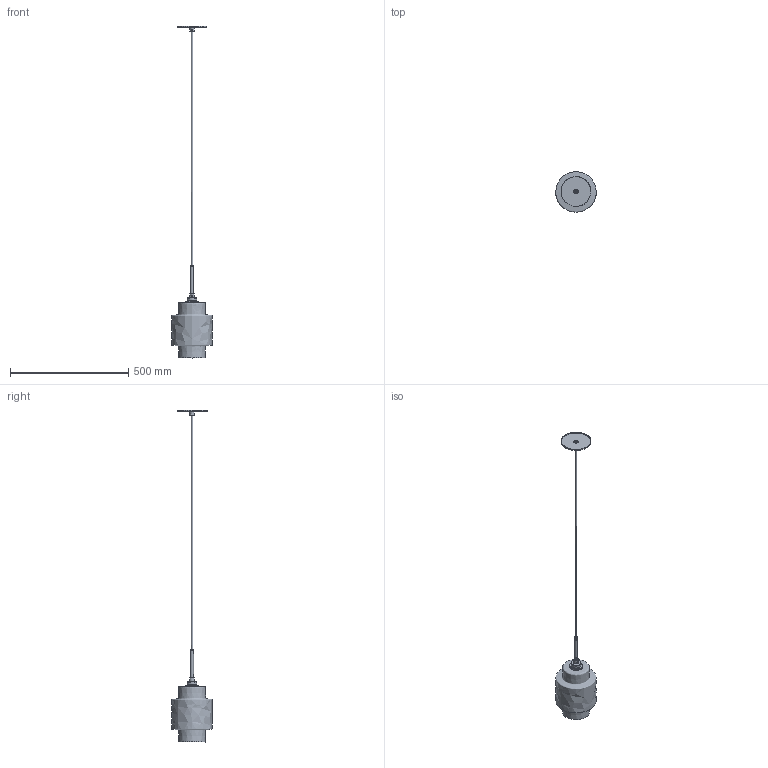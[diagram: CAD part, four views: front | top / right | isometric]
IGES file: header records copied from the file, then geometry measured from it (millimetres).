
Global section: file name: Niche - Axia Pendant; native system: unknown; preprocessor: unknown; author: unknown; organization: unknown; date: 20220926.094510; units: inch
Bounding box: 171.45 x 171.45 x 1406.43 mm (x, y, z)
Volume: 753385.6 mm3; surface area: 377343.4 mm2
Topology: 11 solids, 11 shells, 131 faces, 317 edges, 213 vertices
Faces by surface type: bspline 131
